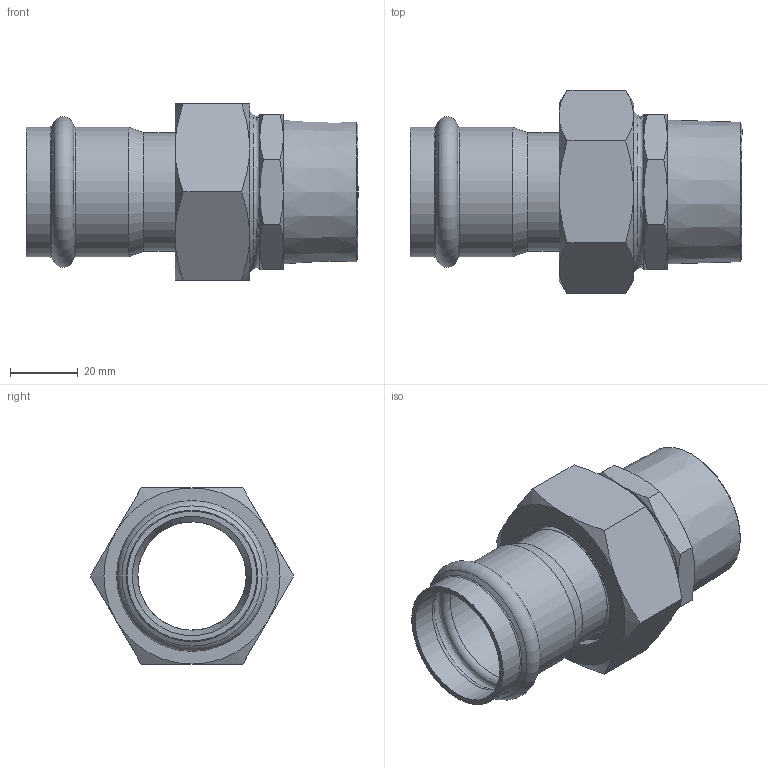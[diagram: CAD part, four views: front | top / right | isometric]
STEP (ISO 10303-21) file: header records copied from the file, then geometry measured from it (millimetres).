
FILE_DESCRIPTION((''),'2;1');
FILE_NAME('G:\Nirosan-Schmiedefeld\Technics\CAD\Bauteile VA\035\69333gmva35114(3).stp','2011-05-24T13:38:56',('herberg'),(''),'Autodesk Inventor 2009','Autodesk Inventor 2009','');
FILE_SCHEMA(('AUTOMOTIVE_DESIGN { 1 0 10303 214 1 1 1 1 }'));
Length unit declared in the file: millimetre
Products named in the file (7): 69333gmva35114(3); 69359m35112(2); HM_6924335(1); R35112(1); SM35112(3); FD_4432_EPDM(0); 69376G112114(2)
Assembly tree (6 placements, depth 3):
  69333gmva35114(3)
    69359m35112(2)
      HM_6924335(1)
      R35112(1)
      SM35112(3)
      FD_4432_EPDM(0)
    69376G112114(2)
Bounding box: 98 x 60.04 x 52 mm (x, y, z)
Volume: 57471.6 mm3; surface area: 37902.9 mm2
Topology: 5 solids, 5 shells, 105 faces, 213 edges, 121 vertices
Faces by surface type: plane 42, cone 37, cylinder 12, bspline 10, torus 4
Full cylindrical faces by diameter (mm): 32 x3, 35 x2, 35.25 x2, 38.25 x2, 43 x1, 44 x1, 47.803 x1
Entity records: 3115 total; most frequent: CARTESIAN_POINT 1038, DIRECTION 408, ORIENTED_EDGE 350, AXIS2_PLACEMENT_3D 189, EDGE_CURVE 175, EDGE_LOOP 152, VERTEX_POINT 117, FACE_OUTER_BOUND 105
